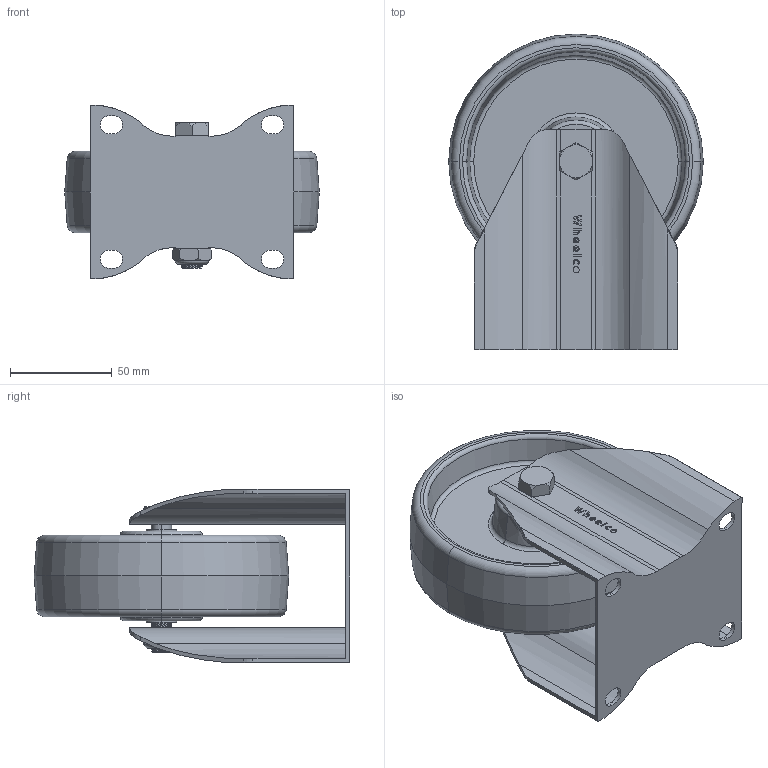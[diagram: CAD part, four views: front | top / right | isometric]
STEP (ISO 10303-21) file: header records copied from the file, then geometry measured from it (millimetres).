
FILE_DESCRIPTION (( 'STEP AP214' ), '1' );
FILE_NAME ('MSN125-SF.step', '2024-01-21T22:19:58', ( '' ), ( '' ), 'SwSTEP 2.0', 'SolidWorks 2022', '' );
FILE_SCHEMA (( 'AUTOMOTIVE_DESIGN' ));
Length unit declared in the file: millimetre
Products named in the file (6): MS125-SF; M10 Nyloc SS; MSN125-SF; MSN125; SP15-10-47; M10X65
Assembly tree (5 placements, depth 2):
  MSN125-SF
    MS125-SF
    M10X65
    M10 Nyloc SS
    SP15-10-47
    MSN125
Bounding box: 125 x 155 x 85 mm (x, y, z)
Volume: 314157.5 mm3; surface area: 112003.9 mm2
Topology: 5 solids, 5 shells, 353 faces, 937 edges, 610 vertices
Faces by surface type: cylinder 135, plane 109, bspline 46, cone 33, torus 30
Entity records: 19820 total; most frequent: CARTESIAN_POINT 10383, ORIENTED_EDGE 1874, DIRECTION 1470, EDGE_CURVE 937, VERTEX_POINT 610, AXIS2_PLACEMENT_3D 521, LINE 428, VECTOR 428
